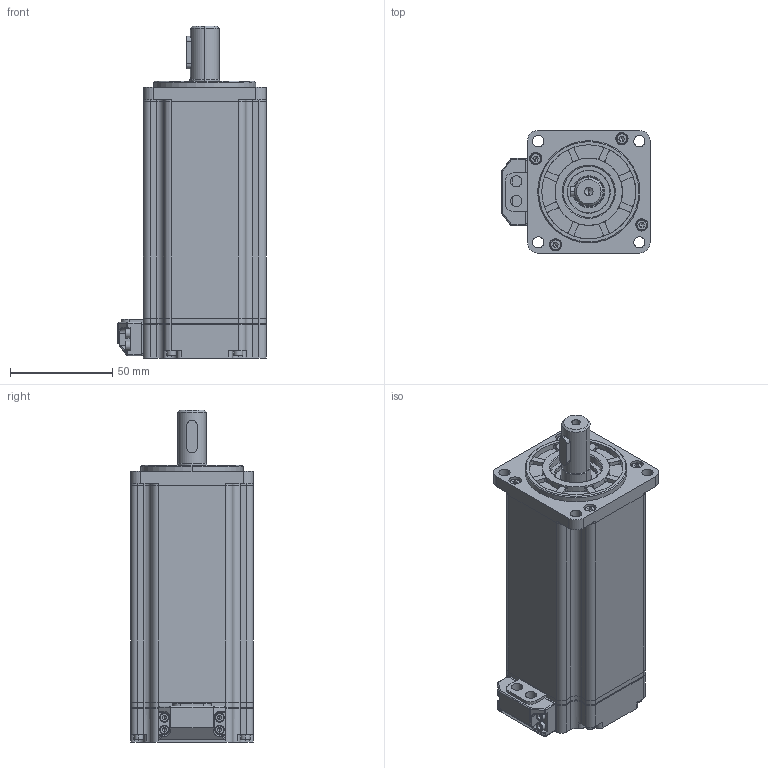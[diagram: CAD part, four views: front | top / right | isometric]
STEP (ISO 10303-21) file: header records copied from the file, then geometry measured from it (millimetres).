
FILE_DESCRIPTION (( 'STEP AP203' ), '1' );
FILE_NAME ('淕儂蚾饜4.STEP', '2020-08-04T02:36:04', ( 'admin' ), ( '' ), 'SwSTEP 2.0', 'SolidWorks 2016', '' );
FILE_SCHEMA (( 'CONFIG_CONTROL_DESIGN' ));
Products named in the file (1): 淕儂蚾饜4
Bounding box: 72.5 x 60 x 162.5 mm (x, y, z)
Volume: 235851.2 mm3; surface area: 149937 mm2
Topology: 25 solids, 25 shells, 1426 faces, 4068 edges, 2581 vertices
Faces by surface type: cylinder 581, plane 482, cone 141, torus 140, sphere 72, bspline 10
Entity records: 48229 total; most frequent: CARTESIAN_POINT 11677, DIRECTION 7900, ORIENTED_EDGE 7614, EDGE_CURVE 3807, AXIS2_PLACEMENT_3D 3146, VERTEX_POINT 2465, CIRCLE 1729, EDGE_LOOP 1628
